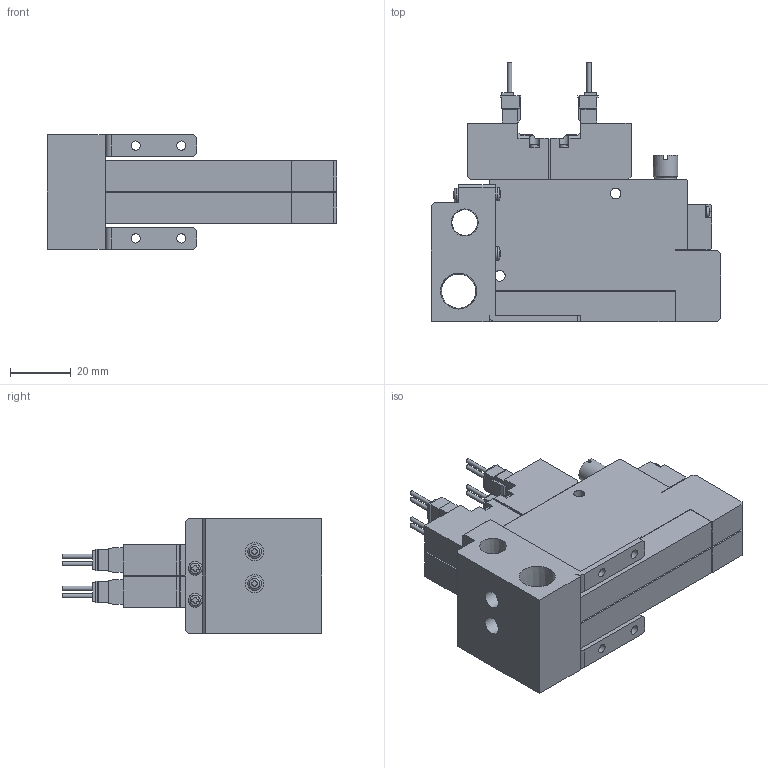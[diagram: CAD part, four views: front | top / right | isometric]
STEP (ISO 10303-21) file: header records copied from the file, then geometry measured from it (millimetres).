
FILE_DESCRIPTION(('STEP AP203'),'1');
FILE_NAME('ZZC5SC202_3D.stp','2024-09-04T09:28:59',(' '),(' '),'Spatial InterOp 3D',' ',' ');
FILE_SCHEMA(('CONFIG_CONTROL_DESIGN'));
Length unit declared in the file: millimetre
Products named in the file (5): BSC1M※※ZZC5SC202; Solenoid valve S; Pressure Sensor ZZ; Unit-C; BaseMC20R
Assembly tree (7 placements, depth 2):
  BSC1M※※ZZC5SC202
    Solenoid valve S  x2
    Pressure Sensor ZZ  x2
    Unit-C  x2
    BaseMC20R
Bounding box: 95 x 85.05 x 37.5 mm (x, y, z)
Volume: 112099.9 mm3; surface area: 40002.8 mm2
Topology: 7 solids, 7 shells, 775 faces, 2079 edges, 1374 vertices
Faces by surface type: plane 581, cylinder 152, cone 18, sphere 12, torus 12
Full cylindrical faces by diameter (mm): 1.4 x8, 2.5 x4, 3 x12, 3.5 x12, 4 x2, 4.134 x4, 4.5 x8, 5.5 x2, 6 x2, 7 x4, 8 x2, 8.422 x1, 11.233 x1
Entity records: 14731 total; most frequent: CARTESIAN_POINT 3094, DIRECTION 2307, ORIENTED_EDGE 2280, EDGE_CURVE 1140, LINE 831, VECTOR 831, VERTEX_POINT 795, AXIS2_PLACEMENT_3D 738
